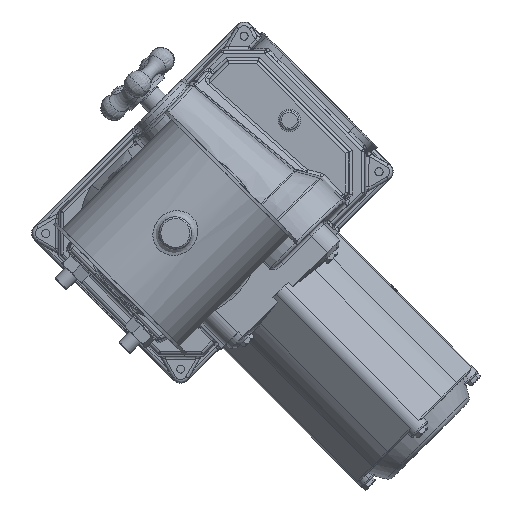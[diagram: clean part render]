
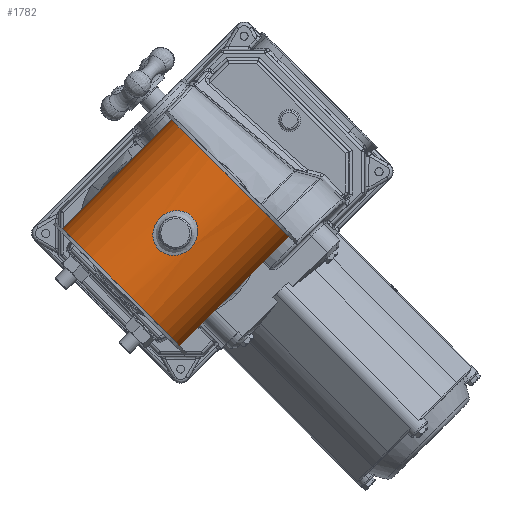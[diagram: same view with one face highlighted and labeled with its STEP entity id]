
A CAD part, top view. The second image highlights one B-rep face of the part: STEP entity #1782.
In plain terms, the highlighted cylindrical face has radius 51.5 mm (diameter 103 mm), a full revolution.
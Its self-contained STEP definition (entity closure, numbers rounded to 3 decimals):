
#1442=CARTESIAN_POINT('',(-50.0,12.339,41.763));
#1443=VERTEX_POINT('',#1442);
#1444=CARTESIAN_POINT('',(-50.0,12.339,58.822));
#1445=VERTEX_POINT('',#1444);
#1446=CARTESIAN_POINT('',(-50.0,12.339,41.763));
#1447=DIRECTION('',(0.0,0.0,1.0));
#1448=VECTOR('',#1447,17.059);
#1449=LINE('',#1446,#1448);
#1450=EDGE_CURVE('',#1443,#1445,#1449,.T.);
#1467=CARTESIAN_POINT('',(-50.0,-12.339,58.822));
#1468=VERTEX_POINT('',#1467);
#1469=CARTESIAN_POINT('',(-50.0,-12.339,41.763));
#1470=VERTEX_POINT('',#1469);
#1471=CARTESIAN_POINT('',(-50.0,-12.339,58.822));
#1472=DIRECTION('',(0.0,0.0,-1.0));
#1473=VECTOR('',#1472,17.059);
#1474=LINE('',#1471,#1473);
#1475=EDGE_CURVE('',#1468,#1470,#1474,.T.);
#1492=CARTESIAN_POINT('',(-50.0,-12.339,41.763));
#1493=CARTESIAN_POINT('',(-50.129,-11.815,41.006));
#1494=CARTESIAN_POINT('',(-50.265,-11.228,40.308));
#1495=CARTESIAN_POINT('',(-50.675,-9.281,38.361));
#1496=CARTESIAN_POINT('',(-50.97,-7.602,37.208));
#1497=CARTESIAN_POINT('',(-51.281,-4.832,36.057));
#1498=CARTESIAN_POINT('',(-51.364,-3.868,35.766));
#1499=CARTESIAN_POINT('',(-51.473,-1.926,35.384));
#1500=CARTESIAN_POINT('',(-51.5,-0.948,35.293));
#1501=CARTESIAN_POINT('',(-51.5,0.948,35.293));
#1502=CARTESIAN_POINT('',(-51.473,1.926,35.384));
#1503=CARTESIAN_POINT('',(-51.364,3.868,35.766));
#1504=CARTESIAN_POINT('',(-51.281,4.832,36.057));
#1505=CARTESIAN_POINT('',(-50.97,7.602,37.208));
#1506=CARTESIAN_POINT('',(-50.675,9.281,38.361));
#1507=CARTESIAN_POINT('',(-50.265,11.228,40.308));
#1508=CARTESIAN_POINT('',(-50.129,11.815,41.006));
#1509=CARTESIAN_POINT('',(-50.0,12.339,41.763));
#1510=B_SPLINE_CURVE_WITH_KNOTS('',3,(#1492,#1493,#1494,#1495,#1496,#1497,#1498,#1499,#1500,#1501,#1502,#1503,#1504,#1505,#1506,#1507,#1508,#1509),.UNSPECIFIED.,.F.,.U.,(4,2,2,2,2,2,2,2,4),(5.419,5.686,6.255,6.539,6.823,7.108,7.392,7.96,8.227),.UNSPECIFIED.);
#1511=EDGE_CURVE('',#1470,#1443,#1510,.T.);
#1514=CARTESIAN_POINT('',(-50.0,12.339,58.822));
#1515=CARTESIAN_POINT('',(-50.129,11.815,59.58));
#1516=CARTESIAN_POINT('',(-50.265,11.228,60.278));
#1517=CARTESIAN_POINT('',(-50.675,9.281,62.225));
#1518=CARTESIAN_POINT('',(-50.97,7.602,63.378));
#1519=CARTESIAN_POINT('',(-51.281,4.832,64.528));
#1520=CARTESIAN_POINT('',(-51.364,3.868,64.819));
#1521=CARTESIAN_POINT('',(-51.473,1.926,65.202));
#1522=CARTESIAN_POINT('',(-51.5,0.948,65.293));
#1523=CARTESIAN_POINT('',(-51.5,-0.948,65.293));
#1524=CARTESIAN_POINT('',(-51.473,-1.926,65.202));
#1525=CARTESIAN_POINT('',(-51.364,-3.868,64.819));
#1526=CARTESIAN_POINT('',(-51.281,-4.832,64.528));
#1527=CARTESIAN_POINT('',(-50.97,-7.602,63.378));
#1528=CARTESIAN_POINT('',(-50.675,-9.281,62.225));
#1529=CARTESIAN_POINT('',(-50.265,-11.228,60.278));
#1530=CARTESIAN_POINT('',(-50.129,-11.815,59.58));
#1531=CARTESIAN_POINT('',(-50.0,-12.339,58.822));
#1532=B_SPLINE_CURVE_WITH_KNOTS('',3,(#1514,#1515,#1516,#1517,#1518,#1519,#1520,#1521,#1522,#1523,#1524,#1525,#1526,#1527,#1528,#1529,#1530,#1531),.UNSPECIFIED.,.F.,.U.,(4,2,2,2,2,2,2,2,4),(0.871,1.137,1.706,1.99,2.274,2.559,2.843,3.411,3.678),.UNSPECIFIED.);
#1533=EDGE_CURVE('',#1445,#1468,#1532,.T.);
#1709=CARTESIAN_POINT('',(49.744,13.335,50.293));
#1710=VERTEX_POINT('',#1709);
#1720=CARTESIAN_POINT('',(49.743,13.336,50.293));
#1721=CARTESIAN_POINT('',(49.743,13.336,50.293));
#1722=CARTESIAN_POINT('',(49.743,13.336,50.294));
#1723=CARTESIAN_POINT('',(49.743,13.336,50.294));
#1724=CARTESIAN_POINT('',(49.743,13.336,52.461));
#1725=CARTESIAN_POINT('',(50.001,12.421,56.796));
#1726=CARTESIAN_POINT('',(50.851,8.618,61.994));
#1727=CARTESIAN_POINT('',(51.526,3.114,64.904));
#1728=CARTESIAN_POINT('',(51.526,-3.077,64.919));
#1729=CARTESIAN_POINT('',(50.858,-8.59,62.008));
#1730=CARTESIAN_POINT('',(49.902,-12.841,56.264));
#1731=CARTESIAN_POINT('',(49.614,-13.793,49.507));
#1732=CARTESIAN_POINT('',(50.158,-11.792,42.487));
#1733=CARTESIAN_POINT('',(50.965,-8.044,38.1));
#1734=CARTESIAN_POINT('',(51.527,-2.405,35.676));
#1735=CARTESIAN_POINT('',(51.526,3.082,35.672));
#1736=CARTESIAN_POINT('',(50.853,8.603,38.583));
#1737=CARTESIAN_POINT('',(50.004,12.412,43.757));
#1738=CARTESIAN_POINT('',(49.743,13.336,48.127));
#1739=CARTESIAN_POINT('',(49.743,13.336,50.293));
#1740=B_SPLINE_CURVE_WITH_KNOTS('',3,(#1720,#1721,#1722,#1723,#1724,#1725,#1726,#1727,#1728,#1729,#1730,#1731,#1732,#1733,#1734,#1735,#1736,#1737,#1738,#1739),.UNSPECIFIED.,.T.,.U.,(4,3,1,1,1,1,1,1,1,1,1,1,1,1,1,4),(-6.044,-6.044,-5.612,-5.18,-4.748,-4.317,-3.885,-3.453,-2.878,-2.59,-2.015,-1.727,-1.295,-0.863,-0.432,0.),.UNSPECIFIED.);
#1741=EDGE_CURVE('',#1710,#1710,#1740,.T.);
#1746=CARTESIAN_POINT('',(0.0,0.0,0.0));
#1747=DIRECTION('',(0.0,0.0,1.0));
#1748=DIRECTION('',(-1.0,0.0,0.0));
#1749=AXIS2_PLACEMENT_3D('',#1746,#1747,#1748);
#1750=CYLINDRICAL_SURFACE('',#1749,51.5);
#1751=CARTESIAN_POINT('',(51.5,0.,98.0));
#1752=VERTEX_POINT('',#1751);
#1753=CARTESIAN_POINT('',(0.0,0.0,98.0));
#1754=DIRECTION('',(0.0,0.0,-1.0));
#1755=DIRECTION('',(-1.0,0.0,0.0));
#1756=AXIS2_PLACEMENT_3D('',#1753,#1754,#1755);
#1757=CIRCLE('',#1756,51.5);
#1758=EDGE_CURVE('',#1752,#1752,#1757,.T.);
#1759=ORIENTED_EDGE('',*,*,#1758,.T.);
#1760=EDGE_LOOP('',(#1759));
#1761=FACE_OUTER_BOUND('',#1760,.T.);
#1762=ORIENTED_EDGE('',*,*,#1533,.T.);
#1763=ORIENTED_EDGE('',*,*,#1475,.T.);
#1764=ORIENTED_EDGE('',*,*,#1511,.T.);
#1765=ORIENTED_EDGE('',*,*,#1450,.T.);
#1766=EDGE_LOOP('',(#1762,#1763,#1764,#1765));
#1767=FACE_BOUND('',#1766,.T.);
#1768=CARTESIAN_POINT('',(-51.5,0.,2.0));
#1769=VERTEX_POINT('',#1768);
#1770=CARTESIAN_POINT('',(0.0,0.0,2.0));
#1771=DIRECTION('',(0.0,0.0,1.0));
#1772=DIRECTION('',(-1.0,0.0,0.0));
#1773=AXIS2_PLACEMENT_3D('',#1770,#1771,#1772);
#1774=CIRCLE('',#1773,51.5);
#1775=EDGE_CURVE('',#1769,#1769,#1774,.T.);
#1776=ORIENTED_EDGE('',*,*,#1775,.T.);
#1777=EDGE_LOOP('',(#1776));
#1778=FACE_BOUND('',#1777,.T.);
#1779=ORIENTED_EDGE('',*,*,#1741,.F.);
#1780=EDGE_LOOP('',(#1779));
#1781=FACE_BOUND('',#1780,.T.);
#1782=ADVANCED_FACE('',(#1761,#1767,#1778,#1781),#1750,.T.);
